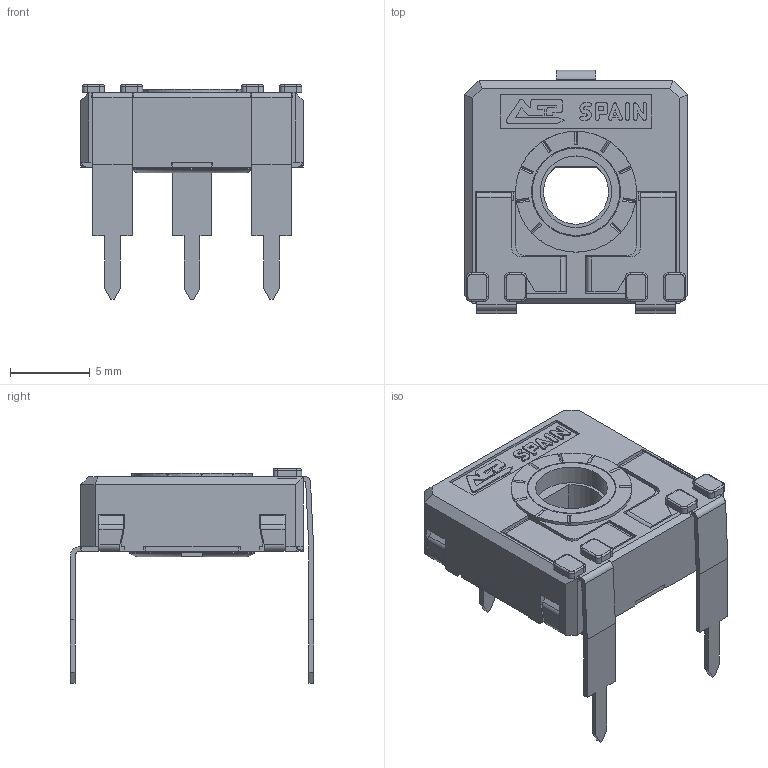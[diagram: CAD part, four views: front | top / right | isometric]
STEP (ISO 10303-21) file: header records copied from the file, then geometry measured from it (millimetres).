
FILE_DESCRIPTION(/* description */ (''),/* implementation_level */ '2;1');
FILE_NAME(/* name */ 'C:\Users\CEM\Desktop\ENVIAR\TRANSICION 3D CATALOGOS\RS14DVJ15.stp',/* time_stamp */ '2025-12-10T10:18:20+01:00',/* author */ ('CEM'),/* organization */ (''),/* preprocessor_version */ 'ST-DEVELOPER v16.13',/* originating_system */ 'Autodesk Inventor 2018',/* authorisation */ '');
FILE_SCHEMA (('AUTOMOTIVE_DESIGN { 1 0 10303 214 3 1 1 }'));
Length unit declared in the file: millimetre
Products named in the file (1): CARCASA CA14 PGA
Bounding box: 14 x 15.3 x 13.5 mm (x, y, z)
Volume: 528.8 mm3; surface area: 1510.9 mm2
Topology: 1 solids, 1 shells, 671 faces, 1887 edges, 1213 vertices
Faces by surface type: plane 496, cylinder 138, torus 23, bspline 8, cone 6
Full cylindrical faces by diameter (mm): 4.5 x1, 5.5 x1, 5.6 x1, 5.752 x1, 6.8 x1, 7.6 x1
Entity records: 21701 total; most frequent: CARTESIAN_POINT 3964, ORIENTED_EDGE 3744, DIRECTION 3532, EDGE_CURVE 1872, LINE 1484, VECTOR 1484, VERTEX_POINT 1208, AXIS2_PLACEMENT_3D 1024
